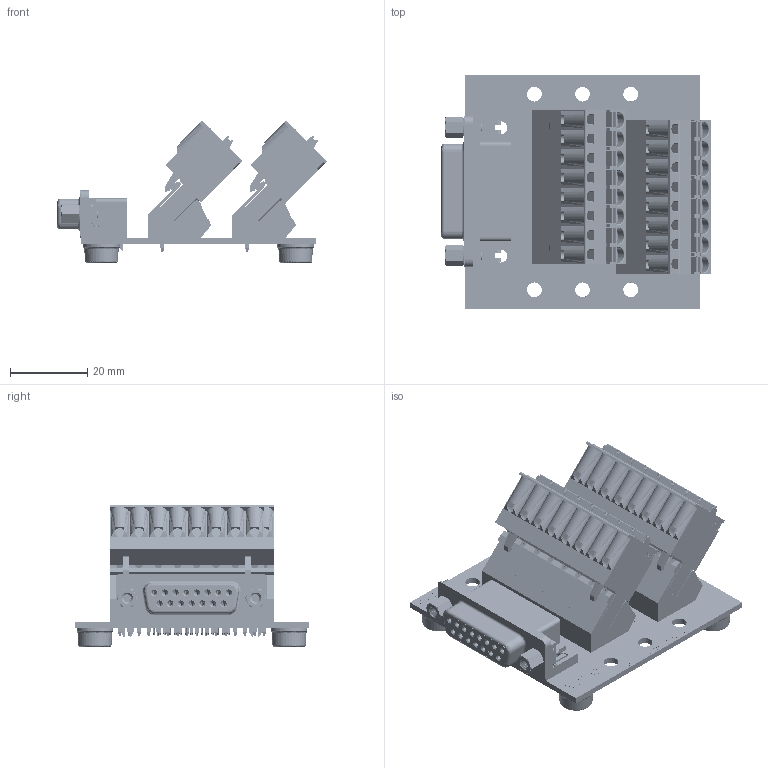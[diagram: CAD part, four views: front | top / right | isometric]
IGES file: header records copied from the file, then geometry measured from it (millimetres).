
Start section: SolidWorks IGES file using analytic representation for surfaces
Global section: file name: D:\Documents\Winford Engineering Jobs\BRKLD15\BRKLD15F\brkld15f-rg-ft_rev_a.igs; native system: SolidWorks 2017; preprocessor: SolidWorks 2017; author: mudhf; date: 210208.224401; units: inch
Bounding box: 70.02 x 60.96 x 36.86 mm (x, y, z)
Surface area: 35165.9 mm2 (no closed solid volume)
Topology: 0 solids, 0 shells, 7587 faces, 57933 edges, 57926 vertices
Faces by surface type: bspline 5777, revolution 1810
